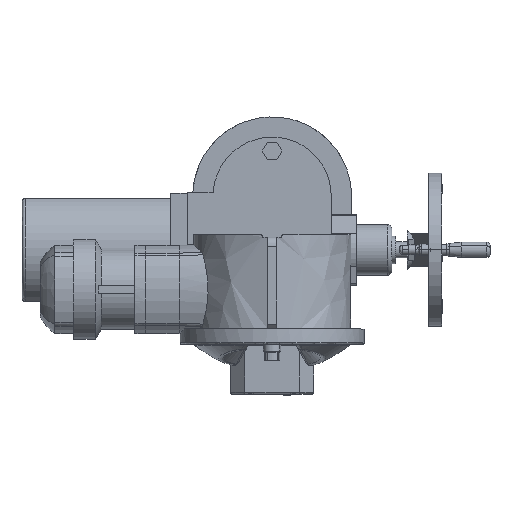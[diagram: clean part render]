
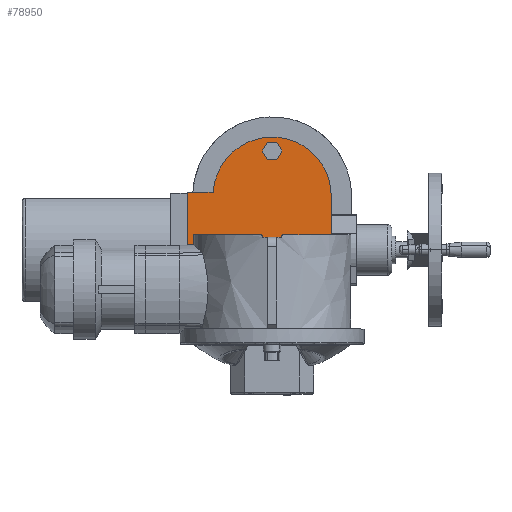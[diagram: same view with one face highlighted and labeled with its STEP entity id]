
A CAD part, top view. The second image highlights one B-rep face of the part: STEP entity #78950.
In plain terms, the highlighted free-form (B-spline) face has degree [1, 1] with [2, 2] control points.
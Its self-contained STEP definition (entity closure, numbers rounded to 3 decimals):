
#62140=CARTESIAN_POINT('',(-76.837,36.,137.5));
#62150=CARTESIAN_POINT('',(-110.5,36.,137.5));
#62160=B_SPLINE_CURVE_WITH_KNOTS('',1,(#62140,#62150),.UNSPECIFIED.,.F.,
.F.,(2,2),(0.,33.663),.UNSPECIFIED.);
#62170=CARTESIAN_POINT('',(-76.837,36.,137.5));
#62180=VERTEX_POINT('',#62170);
#62190=CARTESIAN_POINT('',(-110.5,36.,137.5));
#62200=VERTEX_POINT('',#62190);
#62210=EDGE_CURVE('',#62180,#62200,#62160,.T.);
#63130=CARTESIAN_POINT('',(-110.5,-114.,137.5));
#63140=VERTEX_POINT('',#63130);
#63170=CARTESIAN_POINT('',(-61.,-114.,137.5));
#63180=CARTESIAN_POINT('',(-110.5,-114.,137.5));
#63190=B_SPLINE_CURVE_WITH_KNOTS('',1,(#63170,#63180),.UNSPECIFIED.,.F.,
.F.,(2,2),(0.,49.5),.UNSPECIFIED.);
#63200=CARTESIAN_POINT('',(-61.,-114.,137.5));
#63210=VERTEX_POINT('',#63200);
#63220=EDGE_CURVE('',#63210,#63140,#63190,.T.);
#63670=CARTESIAN_POINT('',(-110.5,-114.,137.5));
#63680=CARTESIAN_POINT('',(-110.5,36.,137.5));
#63690=B_SPLINE_CURVE_WITH_KNOTS('',1,(#63670,#63680),.UNSPECIFIED.,.F.,
.F.,(2,2),(0.,150.),.UNSPECIFIED.);
#63700=EDGE_CURVE('',#63140,#62200,#63690,.T.);
#71730=CARTESIAN_POINT('',(12.702,89.813,137.5));
#71740=VERTEX_POINT('',#71730);
#71770=CARTESIAN_POINT('',(6.351,78.813,137.5));
#71780=CARTESIAN_POINT('',(12.702,89.813,137.5));
#71790=B_SPLINE_CURVE_WITH_KNOTS('',1,(#71770,#71780),.UNSPECIFIED.,.F.,
.F.,(2,2),(0.,12.702),.UNSPECIFIED.);
#71800=CARTESIAN_POINT('',(6.351,78.813,137.5));
#71810=VERTEX_POINT('',#71800);
#71820=EDGE_CURVE('',#71810,#71740,#71790,.T.);
#72410=CARTESIAN_POINT('',(-6.351,78.813,137.5));
#72420=CARTESIAN_POINT('',(6.351,78.813,137.5));
#72430=B_SPLINE_CURVE_WITH_KNOTS('',1,(#72410,#72420),.UNSPECIFIED.,.F.,
.F.,(2,2),(0.,12.702),.UNSPECIFIED.);
#72440=CARTESIAN_POINT('',(-6.351,78.813,137.5));
#72450=VERTEX_POINT('',#72440);
#72460=EDGE_CURVE('',#72450,#71810,#72430,.T.);
#72630=CARTESIAN_POINT('',(-12.702,89.813,137.5));
#72640=CARTESIAN_POINT('',(-6.351,78.813,137.5));
#72650=B_SPLINE_CURVE_WITH_KNOTS('',1,(#72630,#72640),.UNSPECIFIED.,.F.,
.F.,(2,2),(0.,12.702),.UNSPECIFIED.);
#72660=CARTESIAN_POINT('',(-12.702,89.813,137.5));
#72670=VERTEX_POINT('',#72660);
#72680=EDGE_CURVE('',#72670,#72450,#72650,.T.);
#72850=CARTESIAN_POINT('',(-6.351,100.813,137.5));
#72860=CARTESIAN_POINT('',(-12.702,89.813,137.5));
#72870=B_SPLINE_CURVE_WITH_KNOTS('',1,(#72850,#72860),.UNSPECIFIED.,.F.,
.F.,(2,2),(0.,12.702),.UNSPECIFIED.);
#72880=CARTESIAN_POINT('',(-6.351,100.813,137.5));
#72890=VERTEX_POINT('',#72880);
#72900=EDGE_CURVE('',#72890,#72670,#72870,.T.);
#73070=CARTESIAN_POINT('',(6.351,100.813,137.5));
#73080=CARTESIAN_POINT('',(-6.351,100.813,137.5));
#73090=B_SPLINE_CURVE_WITH_KNOTS('',1,(#73070,#73080),.UNSPECIFIED.,.F.,
.F.,(2,2),(0.,12.702),.UNSPECIFIED.);
#73100=CARTESIAN_POINT('',(6.351,100.813,137.5));
#73110=VERTEX_POINT('',#73100);
#73120=EDGE_CURVE('',#73110,#72890,#73090,.T.);
#73290=CARTESIAN_POINT('',(12.702,89.813,137.5));
#73300=CARTESIAN_POINT('',(6.351,100.813,137.5));
#73310=B_SPLINE_CURVE_WITH_KNOTS('',1,(#73290,#73300),.UNSPECIFIED.,.F.,
.F.,(2,2),(0.,12.702),.UNSPECIFIED.);
#73320=EDGE_CURVE('',#71740,#73110,#73310,.T.);
#73980=CARTESIAN_POINT('',(0.,-140.,137.5)
);
#73990=VERTEX_POINT('',#73980);
#74020=CARTESIAN_POINT('',(0.,-30.,137.5)
);
#74030=CARTESIAN_POINT('',(-19.445,-30.,137.5));
#74040=CARTESIAN_POINT('',(-45.277,-39.723,137.5));
#74050=CARTESIAN_POINT('',(-55.,-65.555,137.5));
#74060=CARTESIAN_POINT('',(-55.,-104.445,137.5));
#74070=CARTESIAN_POINT('',(-45.277,-130.277,137.5));
#74080=CARTESIAN_POINT('',(-19.445,-140.,137.5));
#74090=CARTESIAN_POINT('',(0.,-140.,137.5)
);
#74100=(BOUNDED_CURVE() B_SPLINE_CURVE(4,(#74020,#74030,#74040,#74050,
#74060,#74070,#74080,#74090),.UNSPECIFIED.,.F.,.F.) 
B_SPLINE_CURVE_WITH_KNOTS((5,3,5),(0.,1.571,3.142),
.UNSPECIFIED.) CURVE() GEOMETRIC_REPRESENTATION_ITEM() 
RATIONAL_B_SPLINE_CURVE((1.,1.,0.943,1.,1.,0.943
,1.,1.)) REPRESENTATION_ITEM(''));
#74110=CARTESIAN_POINT('',(0.,-30.,137.5)
);
#74120=VERTEX_POINT('',#74110);
#74130=EDGE_CURVE('',#74120,#73990,#74100,.T.);
#74490=CARTESIAN_POINT('',(0.,-140.,137.5)
);
#74500=CARTESIAN_POINT('',(19.445,-140.,137.5));
#74510=CARTESIAN_POINT('',(45.277,-130.277,137.5));
#74520=CARTESIAN_POINT('',(55.,-104.445,137.5));
#74530=CARTESIAN_POINT('',(55.,-65.555,137.5));
#74540=CARTESIAN_POINT('',(45.277,-39.723,137.5));
#74550=CARTESIAN_POINT('',(19.445,-30.,137.5));
#74560=CARTESIAN_POINT('',(0.,-30.,137.5)
);
#74570=(BOUNDED_CURVE() B_SPLINE_CURVE(4,(#74490,#74500,#74510,#74520,
#74530,#74540,#74550,#74560),.UNSPECIFIED.,.F.,.F.) 
B_SPLINE_CURVE_WITH_KNOTS((5,3,5),(0.,1.571,3.142),
.UNSPECIFIED.) CURVE() GEOMETRIC_REPRESENTATION_ITEM() 
RATIONAL_B_SPLINE_CURVE((1.,1.,0.943,1.,1.,0.943
,1.,1.)) REPRESENTATION_ITEM(''));
#74580=EDGE_CURVE('',#73990,#74120,#74570,.T.);
#75340=CARTESIAN_POINT('',(77.,31.,137.5));
#75350=VERTEX_POINT('',#75340);
#75380=CARTESIAN_POINT('',(-76.837,36.,137.5));
#75390=CARTESIAN_POINT('',(-75.099,62.721,137.5));
#75400=CARTESIAN_POINT('',(-59.74,96.866,137.5));
#75410=CARTESIAN_POINT('',(-24.262,108.829,137.5));
#75420=CARTESIAN_POINT('',(29.265,107.089,137.5));
#75430=CARTESIAN_POINT('',(63.891,92.848,137.5));
#75440=CARTESIAN_POINT('',(77.,57.778,137.5));
#75450=CARTESIAN_POINT('',(77.,31.,137.5));
#75460=(BOUNDED_CURVE() B_SPLINE_CURVE(4,(#75380,#75390,#75400,#75410,
#75420,#75430,#75440,#75450),.UNSPECIFIED.,.F.,.F.) 
B_SPLINE_CURVE_WITH_KNOTS((5,3,5),(0.,1.538,3.077)
,.UNSPECIFIED.) CURVE() GEOMETRIC_REPRESENTATION_ITEM() 
RATIONAL_B_SPLINE_CURVE((1.,1.,0.947,1.,1.,0.947
,1.,1.)) REPRESENTATION_ITEM(''));
#75470=EDGE_CURVE('',#62180,#75350,#75460,.T.);
#76590=CARTESIAN_POINT('',(77.,-74.,137.5));
#76600=VERTEX_POINT('',#76590);
#76630=CARTESIAN_POINT('',(77.,31.,137.5));
#76640=CARTESIAN_POINT('',(77.,-74.,137.5));
#76650=B_SPLINE_CURVE_WITH_KNOTS('',1,(#76630,#76640),.UNSPECIFIED.,.F.,
.F.,(2,2),(0.,105.),.UNSPECIFIED.);
#76660=EDGE_CURVE('',#75350,#76600,#76650,.T.);
#76870=CARTESIAN_POINT('',(61.,-74.,137.5));
#76880=VERTEX_POINT('',#76870);
#76910=CARTESIAN_POINT('',(61.,-74.,137.5));
#76920=CARTESIAN_POINT('',(77.,-74.,137.5));
#76930=B_SPLINE_CURVE_WITH_KNOTS('',1,(#76910,#76920),.UNSPECIFIED.,.F.,
.F.,(2,2),(0.,16.),.UNSPECIFIED.);
#76940=EDGE_CURVE('',#76880,#76600,#76930,.T.);
#78420=CARTESIAN_POINT('',(-61.,-114.,137.5));
#78430=CARTESIAN_POINT('',(-61.,-147.,137.5));
#78440=B_SPLINE_CURVE_WITH_KNOTS('',1,(#78420,#78430),.UNSPECIFIED.,.F.,
.F.,(2,2),(0.,33.),.UNSPECIFIED.);
#78450=CARTESIAN_POINT('',(-61.,-147.,137.5));
#78460=VERTEX_POINT('',#78450);
#78470=EDGE_CURVE('',#63210,#78460,#78440,.T.);
#78570=CARTESIAN_POINT('',(-110.5,-147.,137.5));
#78580=CARTESIAN_POINT('',(77.,-147.,137.5));
#78590=CARTESIAN_POINT('',(-110.5,108.829,137.5));
#78600=CARTESIAN_POINT('',(77.,108.829,137.5));
#78610=B_SPLINE_SURFACE_WITH_KNOTS('',1,1,((#78570,#78590),(#78580,
#78600)),.UNSPECIFIED.,.F.,.F.,.F.,(2,2),(2,2),(0.,187.5),(
-33.09,222.739),.UNSPECIFIED.);
#78620=ORIENTED_EDGE('',*,*,#71820,.F.);
#78630=ORIENTED_EDGE('',*,*,#73320,.F.);
#78640=ORIENTED_EDGE('',*,*,#73120,.F.);
#78650=ORIENTED_EDGE('',*,*,#72900,.F.);
#78660=ORIENTED_EDGE('',*,*,#72680,.F.);
#78670=ORIENTED_EDGE('',*,*,#72460,.F.);
#78680=EDGE_LOOP('',(#78670,#78660,#78650,#78640,#78630,#78620));
#78690=FACE_BOUND('',#78680,.T.);
#78700=ORIENTED_EDGE('',*,*,#74580,.F.);
#78710=ORIENTED_EDGE('',*,*,#74130,.F.);
#78720=EDGE_LOOP('',(#78710,#78700));
#78730=FACE_BOUND('',#78720,.T.);
#78740=ORIENTED_EDGE('',*,*,#63220,.F.);
#78750=ORIENTED_EDGE('',*,*,#63700,.F.);
#78760=ORIENTED_EDGE('',*,*,#62210,.T.);
#78770=ORIENTED_EDGE('',*,*,#75470,.F.);
#78780=ORIENTED_EDGE('',*,*,#76660,.F.);
#78790=ORIENTED_EDGE('',*,*,#76940,.T.);
#78800=CARTESIAN_POINT('',(61.,-147.,137.5));
#78810=CARTESIAN_POINT('',(61.,-74.,137.5));
#78820=B_SPLINE_CURVE_WITH_KNOTS('',1,(#78800,#78810),.UNSPECIFIED.,.F.,
.F.,(2,2),(0.,73.),.UNSPECIFIED.);
#78830=CARTESIAN_POINT('',(61.,-147.,137.5));
#78840=VERTEX_POINT('',#78830);
#78850=EDGE_CURVE('',#78840,#76880,#78820,.T.);
#78860=ORIENTED_EDGE('',*,*,#78850,.T.);
#78870=CARTESIAN_POINT('',(-61.,-147.,137.5));
#78880=CARTESIAN_POINT('',(61.,-147.,137.5));
#78890=B_SPLINE_CURVE_WITH_KNOTS('',1,(#78870,#78880),.UNSPECIFIED.,.F.,
.F.,(2,2),(0.,122.),.UNSPECIFIED.);
#78900=EDGE_CURVE('',#78460,#78840,#78890,.T.);
#78910=ORIENTED_EDGE('',*,*,#78900,.T.);
#78920=ORIENTED_EDGE('',*,*,#78470,.T.);
#78930=EDGE_LOOP('',(#78920,#78910,#78860,#78790,#78780,#78770,#78760,
#78750,#78740));
#78940=FACE_OUTER_BOUND('',#78930,.T.);
#78950=ADVANCED_FACE('',(#78690,#78730,#78940),#78610,.T.);
